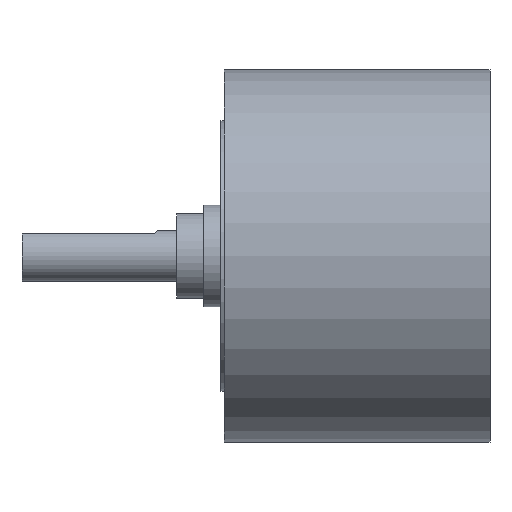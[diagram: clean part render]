
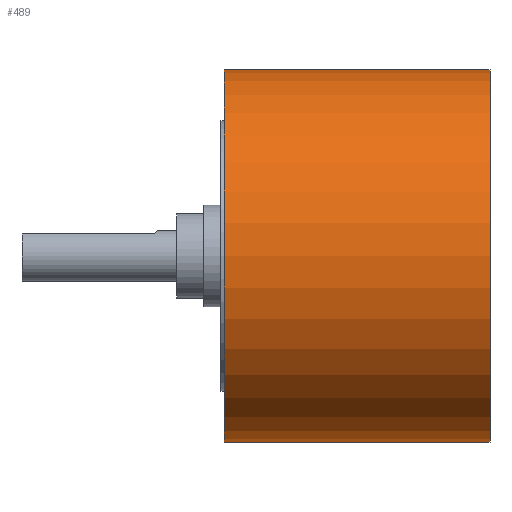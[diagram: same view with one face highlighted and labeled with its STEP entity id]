
A CAD part, top view. The second image highlights one B-rep face of the part: STEP entity #489.
In plain terms, the highlighted cylindrical face has radius 11 mm (diameter 22 mm), a partial arc.
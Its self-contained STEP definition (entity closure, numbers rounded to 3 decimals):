
#82=DIRECTION('',(-1.,0.,0.));
#83=VECTOR('',#82,15.7);
#84=CARTESIAN_POINT('',(-9.1,11.,0.));
#85=LINE('',#84,#83);
#86=CARTESIAN_POINT('',(-9.1,0.,0.));
#87=DIRECTION('',(1.,0.,0.));
#88=DIRECTION('',(0.,1.,0.));
#89=AXIS2_PLACEMENT_3D('',#86,#87,#88);
#91=DIRECTION('',(-1.,0.,0.));
#92=VECTOR('',#91,15.7);
#93=CARTESIAN_POINT('',(-9.1,-11.,0.));
#94=LINE('',#93,#92);
#95=CARTESIAN_POINT('',(-24.8,0.,0.));
#96=DIRECTION('',(1.,0.,0.));
#97=DIRECTION('',(0.,1.,0.));
#98=AXIS2_PLACEMENT_3D('',#95,#96,#97);
#420=CARTESIAN_POINT('',(-24.8,11.,0.));
#421=CARTESIAN_POINT('',(-24.8,-11.,0.));
#422=VERTEX_POINT('',#420);
#423=VERTEX_POINT('',#421);
#440=CARTESIAN_POINT('',(-9.1,11.,0.));
#441=CARTESIAN_POINT('',(-9.1,-11.,0.));
#442=VERTEX_POINT('',#440);
#443=VERTEX_POINT('',#441);
#477=CARTESIAN_POINT('',(1.838,0.,0.));
#478=DIRECTION('',(-1.,0.,0.));
#479=DIRECTION('',(0.,1.,0.));
#480=AXIS2_PLACEMENT_3D('',#477,#478,#479);
#481=CYLINDRICAL_SURFACE('',#480,11.);
#482=ORIENTED_EDGE('',*,*,#467,.F.);
#483=ORIENTED_EDGE('',*,*,#451,.T.);
#484=ORIENTED_EDGE('',*,*,#471,.T.);
#486=ORIENTED_EDGE('',*,*,#485,.F.);
#487=EDGE_LOOP('',(#482,#483,#484,#486));
#488=FACE_OUTER_BOUND('',#487,.F.);
#489=ADVANCED_FACE('',(#488),#481,.T.);
#90=CIRCLE('',#89,11.);
#99=CIRCLE('',#98,11.);
#451=EDGE_CURVE('',#442,#443,#90,.T.);
#467=EDGE_CURVE('',#442,#422,#85,.T.);
#471=EDGE_CURVE('',#443,#423,#94,.T.);
#485=EDGE_CURVE('',#422,#423,#99,.T.);
